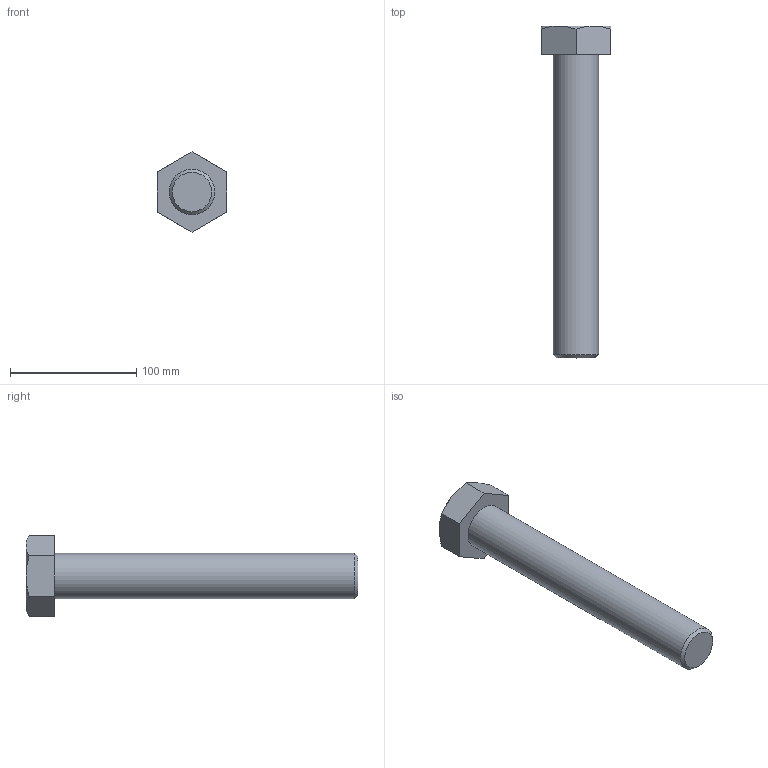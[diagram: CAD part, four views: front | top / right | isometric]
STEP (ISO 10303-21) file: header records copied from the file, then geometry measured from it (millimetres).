
FILE_DESCRIPTION(/* description */ (''),/* implementation_level */ '2;1');
FILE_NAME(/* name */ 'C:\Users\unitec\Documents\Inventor\各種小物\JIS\JIS B 1180 六角ボルト 等級C\hbc36\M36x240.stp',/* time_stamp */ '2015-02-13T14:56:38+09:00',/* author */ ('unitec'),/* organization */ (''),/* preprocessor_version */ 'ST-DEVELOPER v15.2',/* originating_system */ 'Autodesk Inventor 2014',/* authorisation */ '');
FILE_SCHEMA (('AUTOMOTIVE_DESIGN { 1 0 10303 214 3 1 1 }'));
Length unit declared in the file: millimetre
Products named in the file (1): M36x240
Bounding box: 55 x 262.5 x 63.51 mm (x, y, z)
Volume: 302729.5 mm3; surface area: 36376.7 mm2
Topology: 1 solids, 1 shells, 17 faces, 35 edges, 21 vertices
Faces by surface type: plane 9, cone 7, cylinder 1
Full cylindrical faces by diameter (mm): 36 x1
Entity records: 441 total; most frequent: CARTESIAN_POINT 96, ORIENTED_EDGE 66, DIRECTION 66, EDGE_CURVE 33, AXIS2_PLACEMENT_3D 27, VERTEX_POINT 21, EDGE_LOOP 20, ADVANCED_FACE 17
